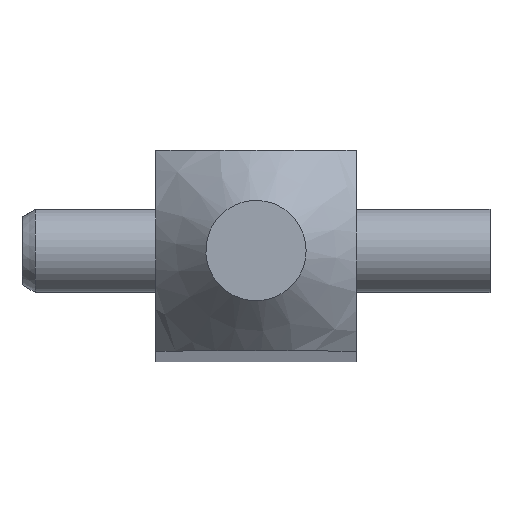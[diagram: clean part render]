
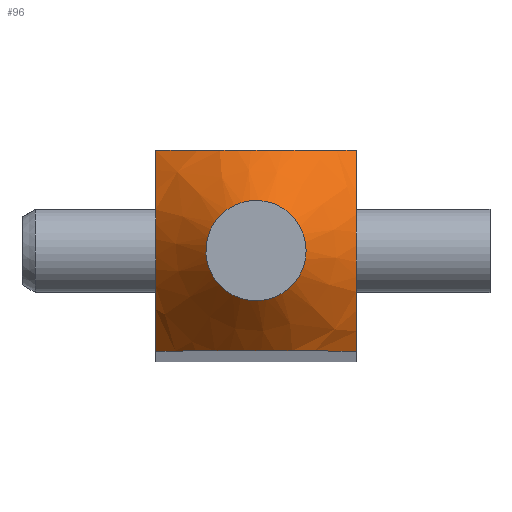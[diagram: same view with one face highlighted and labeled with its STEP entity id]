
A CAD part, top view. The second image highlights one B-rep face of the part: STEP entity #96.
In plain terms, the highlighted conical face has half-angle 45 degrees and reference radius 0.9 mm.
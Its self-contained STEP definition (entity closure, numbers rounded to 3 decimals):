
#53=CONICAL_SURFACE('',#277,0.9,45.);
#57=FACE_BOUND('',#127,.T.);
#58=FACE_BOUND('',#128,.T.);
#60=B_SPLINE_CURVE_WITH_KNOTS('',3,(#369,#370,#371,#372,#373,#374),
 .UNSPECIFIED.,.F.,.F.,(4,2,4),(0.,0.5,1.),.UNSPECIFIED.);
#62=B_SPLINE_CURVE_WITH_KNOTS('',3,(#388,#389,#390,#391,#392,#393),
 .UNSPECIFIED.,.F.,.F.,(4,2,4),(0.,0.5,1.),.UNSPECIFIED.);
#64=B_SPLINE_CURVE_WITH_KNOTS('',3,(#401,#402,#403,#404,#405,#406),
 .UNSPECIFIED.,.F.,.F.,(4,2,4),(0.,0.5,1.),.UNSPECIFIED.);
#66=B_SPLINE_CURVE_WITH_KNOTS('',3,(#415,#416,#417,#418,#419,#420),
 .UNSPECIFIED.,.F.,.F.,(4,2,4),(0.,0.5,1.),.UNSPECIFIED.);
#96=ADVANCED_FACE('',(#57,#58),#53,.T.);
#127=EDGE_LOOP('',(#156));
#128=EDGE_LOOP('',(#157,#158,#159,#160));
#156=ORIENTED_EDGE('',*,*,#198,.T.);
#157=ORIENTED_EDGE('',*,*,#208,.F.);
#158=ORIENTED_EDGE('',*,*,#206,.F.);
#159=ORIENTED_EDGE('',*,*,#210,.F.);
#160=ORIENTED_EDGE('',*,*,#202,.F.);
#178=VERTEX_POINT('',#355);
#179=VERTEX_POINT('',#358);
#182=VERTEX_POINT('',#368);
#183=VERTEX_POINT('',#377);
#186=VERTEX_POINT('',#387);
#198=EDGE_CURVE('',#178,#178,#225,.T.);
#202=EDGE_CURVE('',#182,#179,#60,.T.);
#206=EDGE_CURVE('',#186,#183,#62,.T.);
#208=EDGE_CURVE('',#183,#182,#64,.T.);
#210=EDGE_CURVE('',#179,#186,#66,.T.);
#225=CIRCLE('',#270,1.5);
#270=AXIS2_PLACEMENT_3D('',#354,#299,#300);
#277=AXIS2_PLACEMENT_3D('',#422,#317,#318);
#299=DIRECTION('',(0.,0.,-1.));
#300=DIRECTION('',(1.,0.,0.));
#317=DIRECTION('',(0.,0.,-1.));
#318=DIRECTION('',(-1.,0.,0.));
#354=CARTESIAN_POINT('',(0.,0.,185.));
#355=CARTESIAN_POINT('',(1.5,0.,185.));
#358=CARTESIAN_POINT('',(-3.,-3.,182.257));
#368=CARTESIAN_POINT('',(3.,-3.,182.257));
#369=CARTESIAN_POINT('',(3.,-3.,182.257));
#370=CARTESIAN_POINT('',(2.105,-3.,182.89));
#371=CARTESIAN_POINT('',(1.116,-3.,183.493));
#372=CARTESIAN_POINT('',(-1.077,-3.,183.507));
#373=CARTESIAN_POINT('',(-2.095,-3.,182.897));
#374=CARTESIAN_POINT('',(-3.,-3.,182.257));
#377=CARTESIAN_POINT('',(3.,3.,182.257));
#387=CARTESIAN_POINT('',(-3.,3.,182.257));
#388=CARTESIAN_POINT('',(-3.,3.,182.257));
#389=CARTESIAN_POINT('',(-2.105,3.,182.89));
#390=CARTESIAN_POINT('',(-1.116,3.,183.493));
#391=CARTESIAN_POINT('',(1.077,3.,183.507));
#392=CARTESIAN_POINT('',(2.095,3.,182.897));
#393=CARTESIAN_POINT('',(3.,3.,182.257));
#401=CARTESIAN_POINT('',(3.,3.,182.257));
#402=CARTESIAN_POINT('',(3.,2.105,182.89));
#403=CARTESIAN_POINT('',(3.,1.116,183.493));
#404=CARTESIAN_POINT('',(3.,-1.077,183.507));
#405=CARTESIAN_POINT('',(3.,-2.095,182.897));
#406=CARTESIAN_POINT('',(3.,-3.,182.257));
#415=CARTESIAN_POINT('',(-3.,-3.,182.257));
#416=CARTESIAN_POINT('',(-3.,-2.105,182.89));
#417=CARTESIAN_POINT('',(-3.,-1.116,183.493));
#418=CARTESIAN_POINT('',(-3.,1.077,183.507));
#419=CARTESIAN_POINT('',(-3.,2.095,182.897));
#420=CARTESIAN_POINT('',(-3.,3.,182.257));
#422=CARTESIAN_POINT('',(0.,0.,185.6));
